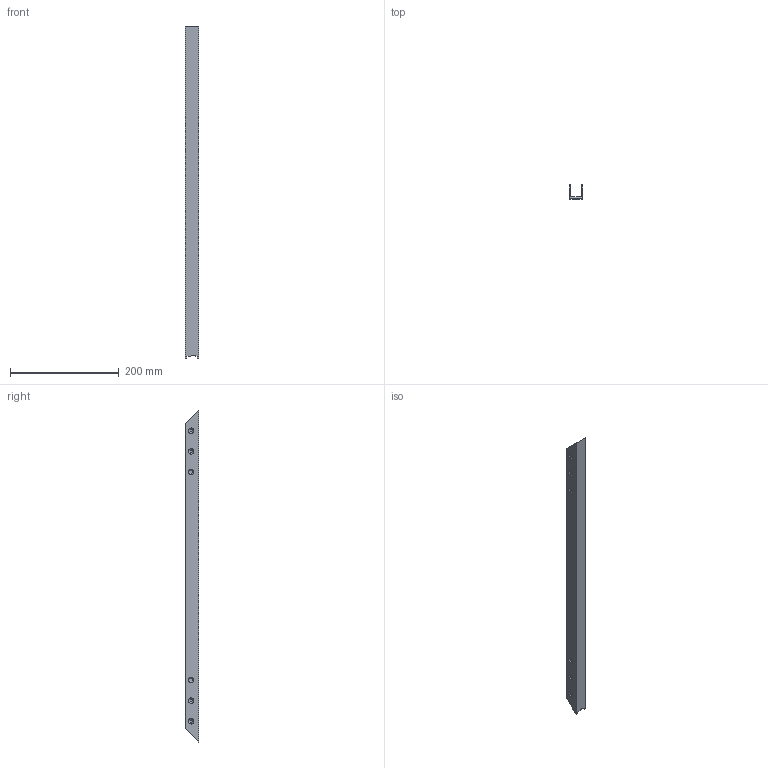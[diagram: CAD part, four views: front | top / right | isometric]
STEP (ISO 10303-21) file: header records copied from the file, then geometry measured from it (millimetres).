
FILE_DESCRIPTION(('FreeCAD Model'),'2;1');
FILE_NAME('Open CASCADE Shape Model','2026-10-06T09:33:39',('FreeCAD'),( 'FreeCAD'),'Open CASCADE STEP processor 7.8','FreeCAD','Unknown');
FILE_SCHEMA(('AUTOMOTIVE_DESIGN { 1 0 10303 214 1 1 1 1 }'));
Length unit declared in the file: millimetre
Products named in the file (1): Open CASCADE STEP translator 7.8 96
Bounding box: 25.4 x 25.4 x 611.77 mm (x, y, z)
Volume: 130463.8 mm3; surface area: 86823.2 mm2
Topology: 1 solids, 1 shells, 29 faces, 71 edges, 44 vertices
Faces by surface type: plane 15, cylinder 8, cone 6
Full cylindrical faces by diameter (mm): 5.5 x6
Entity records: 881 total; most frequent: DIRECTION 153, CARTESIAN_POINT 145, ORIENTED_EDGE 142, EDGE_CURVE 71, AXIS2_PLACEMENT_3D 52, LINE 49, VECTOR 49, VERTEX_POINT 44
